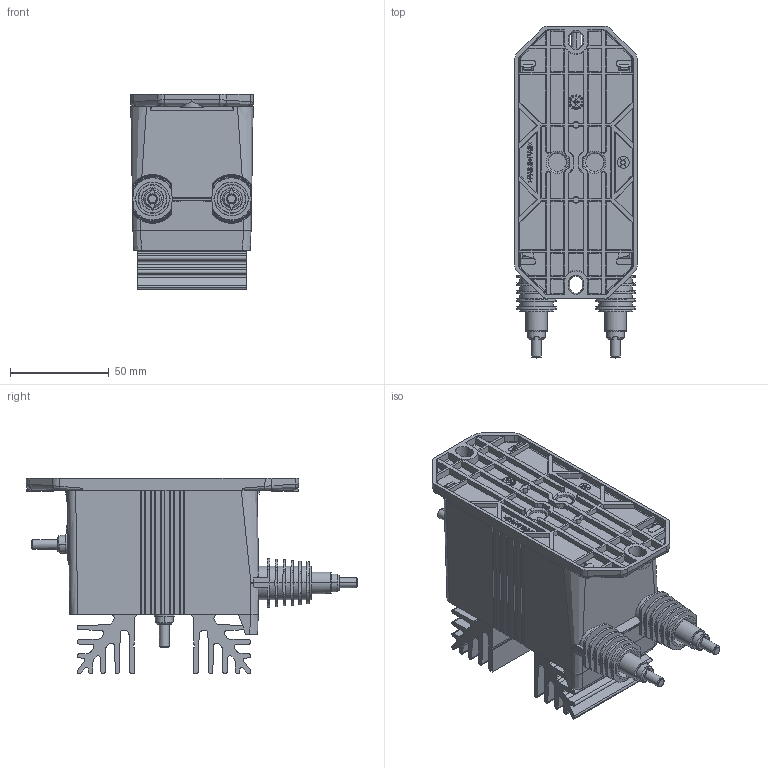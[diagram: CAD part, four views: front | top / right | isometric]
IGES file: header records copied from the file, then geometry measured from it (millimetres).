
Start section: Elysium IGES Interface
Global section: file name: C:\Documents and Settings\rpa\Desktop\LV 100 TYPE 1\BLACKBOX TYPE 1.igs; native system: CoCreate Modeling 17.0B  09-Oct-2010; preprocessor: CoCreate IGES_3D V2.2; author: Unknown; organization: Unknown; date: 20120627.150359; units: millimetre
Bounding box: 62.21 x 168.14 x 99 mm (x, y, z)
Volume: 460029.2 mm3; surface area: 99345.2 mm2
Topology: 1 solids, 23 shells, 1860 faces, 5035 edges, 3283 vertices
Faces by surface type: bspline 1860
